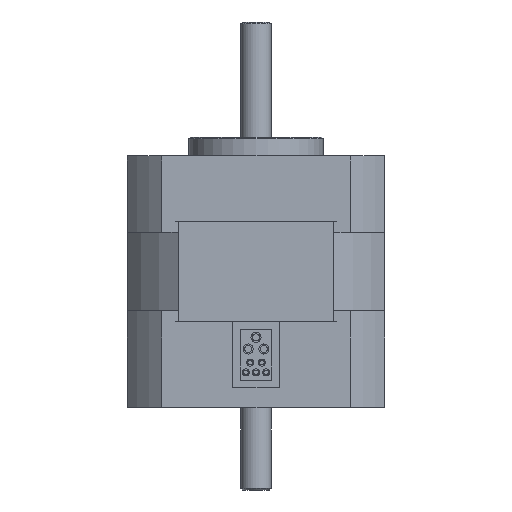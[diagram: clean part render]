
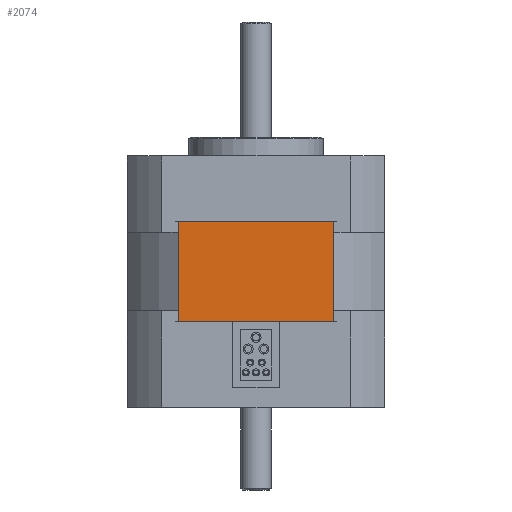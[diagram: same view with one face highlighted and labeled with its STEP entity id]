
A CAD part, front view. The second image highlights one B-rep face of the part: STEP entity #2074.
In plain terms, the highlighted planar face has unit normal (0, -1, 0).
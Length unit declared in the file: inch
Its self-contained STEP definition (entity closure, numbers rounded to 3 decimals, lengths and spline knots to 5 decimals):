
#69 = VECTOR ( 'NONE', #8904, 39.37008 ) ;
#1649 = ORIENTED_EDGE ( 'NONE', *, *, #4070, .T. ) ;
#1650 = ORIENTED_EDGE ( 'NONE', *, *, #2248, .F. ) ;
#1651 = ORIENTED_EDGE ( 'NONE', *, *, #2283, .F. ) ;
#1652 = ORIENTED_EDGE ( 'NONE', *, *, #4122, .T. ) ;
#2074 = ADVANCED_FACE ( 'NONE', ( #5963 ), #5964, .F. ) ;
#2248 = EDGE_CURVE ( 'NONE', #3616, #3639, #8077, .T. ) ;
#2283 = EDGE_CURVE ( 'NONE', #3630, #3616, #8190, .T. ) ;
#2731 = EDGE_LOOP ( 'NONE', ( #1649, #1650, #1651, #1652 ) ) ;
#3616 = VERTEX_POINT ( 'NONE', #8643 ) ;
#3630 = VERTEX_POINT ( 'NONE', #8657 ) ;
#3639 = VERTEX_POINT ( 'NONE', #8666 ) ;
#3648 = VERTEX_POINT ( 'NONE', #8675 ) ;
#4070 = EDGE_CURVE ( 'NONE', #3648, #3639, #8747, .T. ) ;
#4122 = EDGE_CURVE ( 'NONE', #3630, #3648, #8902, .T. ) ;
#5493 = AXIS2_PLACEMENT_3D ( 'NONE', #5976, #5977, #5978 ) ;
#5963 = FACE_OUTER_BOUND ( 'NONE', #2731, .T. ) ;
#5964 = PLANE ( 'NONE',  #5493 ) ;
#5976 = CARTESIAN_POINT ( 'NONE',  ( 0.49895, -0.826, -1.064 ) ) ;
#5977 = DIRECTION ( 'NONE',  ( 0., 1., 0. ) ) ;
#5978 = DIRECTION ( 'NONE',  ( -1., 0., 0. ) ) ;
#7357 = VECTOR ( 'NONE', #8088, 39.37008 ) ;
#7405 = VECTOR ( 'NONE', #8192, 39.37008 ) ;
#7509 = VECTOR ( 'NONE', #8750, 39.37008 ) ;
#8076 = CARTESIAN_POINT ( 'NONE',  ( -0.49895, -0.826, -1.064 ) ) ;
#8077 = LINE ( 'NONE', #8076, #7357 ) ;
#8088 = DIRECTION ( 'NONE',  ( 0., 0., 1. ) ) ;
#8190 = LINE ( 'NONE', #8191, #7405 ) ;
#8191 = CARTESIAN_POINT ( 'NONE',  ( 0.49895, -0.826, -1.064 ) ) ;
#8192 = DIRECTION ( 'NONE',  ( -1., 0., 0. ) ) ;
#8643 = CARTESIAN_POINT ( 'NONE',  ( -0.49895, -0.826, -1.064 ) ) ;
#8657 = CARTESIAN_POINT ( 'NONE',  ( 0.49895, -0.826, -1.064 ) ) ;
#8666 = CARTESIAN_POINT ( 'NONE',  ( -0.49895, -0.826, -0.42 ) ) ;
#8675 = CARTESIAN_POINT ( 'NONE',  ( 0.49895, -0.826, -0.42 ) ) ;
#8746 = CARTESIAN_POINT ( 'NONE',  ( 0.49895, -0.826, -0.42 ) ) ;
#8747 = LINE ( 'NONE', #8746, #7509 ) ;
#8750 = DIRECTION ( 'NONE',  ( -1., 0., 0. ) ) ;
#8902 = LINE ( 'NONE', #8903, #69 ) ;
#8903 = CARTESIAN_POINT ( 'NONE',  ( 0.49895, -0.826, -1.064 ) ) ;
#8904 = DIRECTION ( 'NONE',  ( 0., 0., 1. ) ) ;
